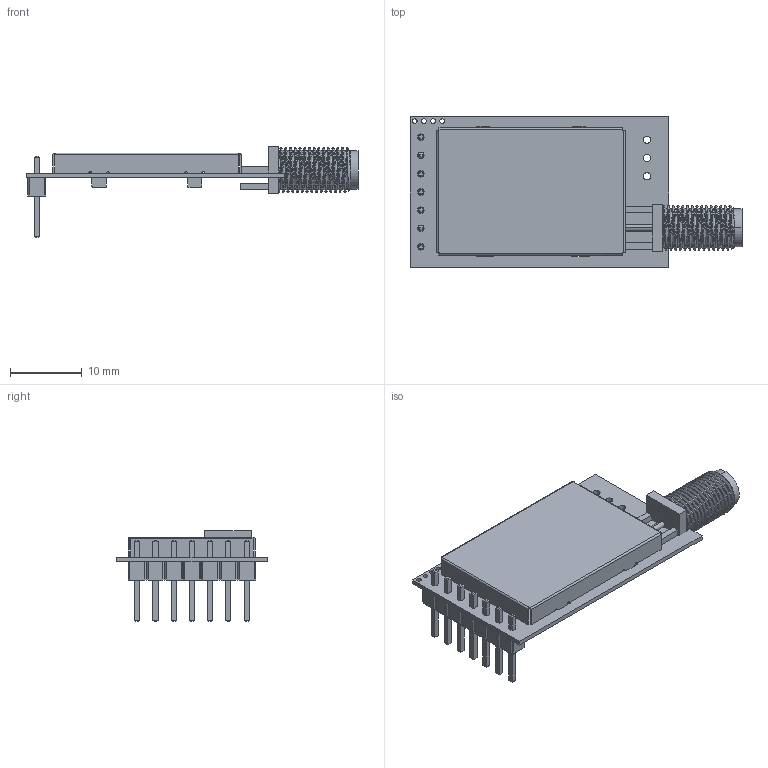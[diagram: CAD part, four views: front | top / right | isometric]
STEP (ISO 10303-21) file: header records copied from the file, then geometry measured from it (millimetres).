
FILE_DESCRIPTION(('Open CASCADE Model'),'2;1');
FILE_NAME('Open CASCADE Shape Model','2023-08-16T16:42:25',('Author'),( 'Open CASCADE'),'Open CASCADE STEP processor 6.2','Open CASCADE 6.2' ,'Unknown');
FILE_SCHEMA(('AUTOMOTIVE_DESIGN { 1 0 10303 214 1 1 1 1 }'));
Length unit declared in the file: millimetre
Products named in the file (82): PCB; Board; C37; CAPC1608X92N_EIA_0603; C36; CAPC1005X56N_EIA_0402; C35; U5; User_Library-SOT23-5; User_Library-SOT23-5_SOT23-5_Connector_Default; User_Library-SOT23-5_SOT23-5_Body_Default; R4; R0402; R3; R2; R1; LR3; User_Library-Chip_InductorINDC1005X60N; L9; L8; C33; C32; C31; C30; C29; C28; C27; C23; C21; C18; L7; L5; L4; L3; L2; L1; XT1; User_Library-GeyerElectronics_KX7; U4; R11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
Assembly tree (140 placements, depth 4):
  PCB
    Board
    C37
      CAPC1608X92N_EIA_0603
    C36
      CAPC1005X56N_EIA_0402
    C35
      CAPC1005X56N_EIA_0402
    U5
      User_Library-SOT23-5
        User_Library-SOT23-5_SOT23-5_Connector_Default  x5
        User_Library-SOT23-5_SOT23-5_Body_Default
    R4
      R0402
    R3
      R0402
    R2
      R0402
    R1
      R0402
    LR3
      User_Library-Chip_InductorINDC1005X60N
    L9
      User_Library-Chip_InductorINDC1005X60N
    L8
      User_Library-Chip_InductorINDC1005X60N
    C33
      CAPC1005X56N_EIA_0402
    C32
      CAPC1005X56N_EIA_0402
    C31
      CAPC1005X56N_EIA_0402
    C30
      CAPC1005X56N_EIA_0402
    C29
      CAPC1005X56N_EIA_0402
    C28
      CAPC1005X56N_EIA_0402
    C27
      CAPC1005X56N_EIA_0402
    C23
      CAPC1005X56N_EIA_0402
    C21
      CAPC1005X56N_EIA_0402
    C18
      CAPC1005X56N_EIA_0402
    L7
      User_Library-Chip_InductorINDC1005X60N
    L5
      User_Library-Chip_InductorINDC1005X60N
    L4
      User_Library-Chip_InductorINDC1005X60N
    L3
      User_Library-Chip_InductorINDC1005X60N
    L2
      User_Library-Chip_InductorINDC1005X60N
    L1
      User_Library-Chip_InductorINDC1005X60N
    XT1
      User_Library-GeyerElectronics_KX7
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Bounding box: 46.22 x 21 x 12.63 mm (x, y, z)
Volume: 1123.7 mm3; surface area: 4607.5 mm2
Topology: 93 solids, 93 shells, 4197 faces, 9957 edges, 5693 vertices
Faces by surface type: plane 2116, cylinder 1138, bspline 536, sphere 392, torus 12, cone 3
Full cylindrical faces by diameter (mm): 0.65 x4, 1 x3
Entity records: 112112 total; most frequent: CARTESIAN_POINT 43949, DIRECTION 10453, LINE 7103, VECTOR 7103, ORIENTED_EDGE 6520, PCURVE 6520, DEFINITIONAL_REPRESENTATION 6520, EDGE_CURVE 3260
